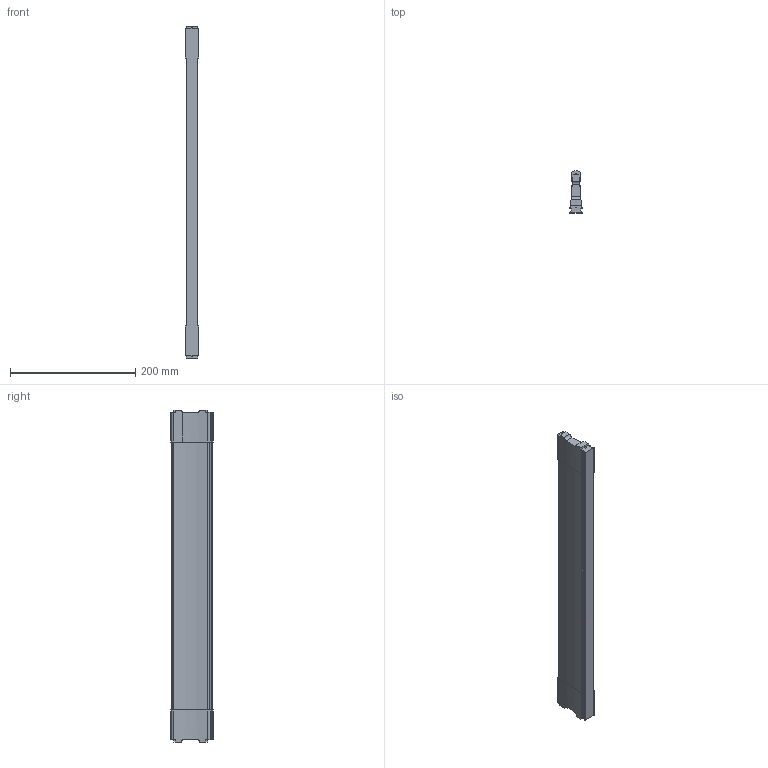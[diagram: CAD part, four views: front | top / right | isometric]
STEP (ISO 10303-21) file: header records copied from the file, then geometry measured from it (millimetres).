
FILE_DESCRIPTION (( 'STEP AP214' ), '1' );
FILE_NAME ('Traverse NOVAPro NL550 Mass X525,4_montiert.step', '2010-09-21T13:17:01', ( 'grass' ), ( '' ), 'SwSTEP 2.0', 'SolidWorks 2010', '' );
FILE_SCHEMA (( 'AUTOMOTIVE_DESIGN' ));
Length unit declared in the file: millimetre
Products named in the file (1): Traverse NOVAPro NL550 Mass X525,4_montiert
Bounding box: 21.4 x 67.5 x 531 mm (x, y, z)
Volume: 442476.7 mm3; surface area: 92457.1 mm2
Topology: 1 solids, 1 shells, 125 faces, 369 edges, 246 vertices
Faces by surface type: cylinder 68, plane 57
Entity records: 4377 total; most frequent: CARTESIAN_POINT 879, DIRECTION 753, ORIENTED_EDGE 738, EDGE_CURVE 369, AXIS2_PLACEMENT_3D 268, VERTEX_POINT 246, LINE 217, VECTOR 217
